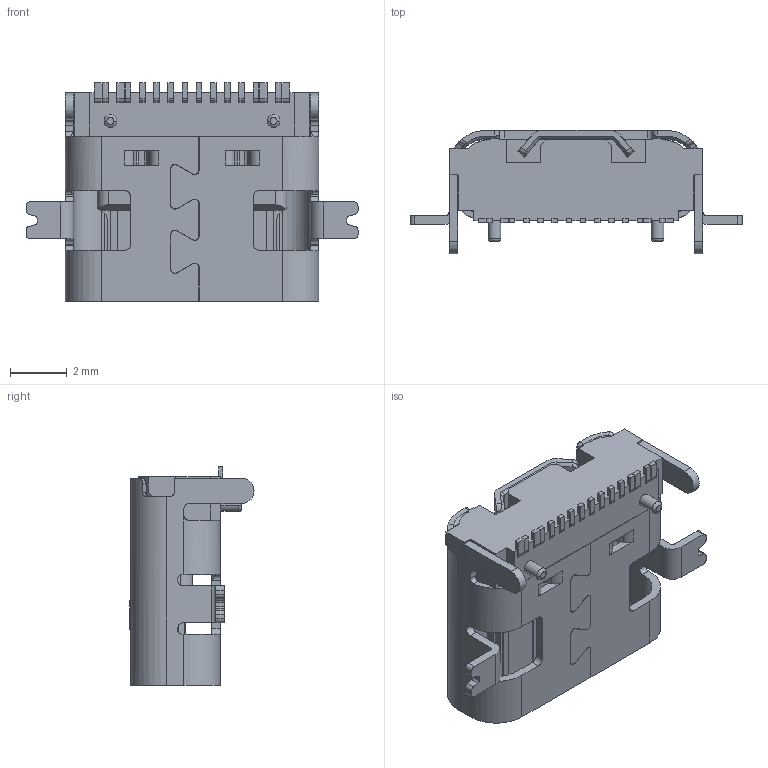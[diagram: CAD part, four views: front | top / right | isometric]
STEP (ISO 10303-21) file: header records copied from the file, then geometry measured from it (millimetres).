
FILE_DESCRIPTION((''),'2;1');
FILE_NAME('ASM0001_ASM','2024-01-27T',('WYH'),(''),'PRO/ENGINEER BY PARAMETRIC TECHNOLOGY CORPORATION, 2013040','PRO/ENGINEER BY PARAMETRIC TECHNOLOGY CORPORATION, 2013040','');
FILE_SCHEMA(('CONFIG_CONTROL_DESIGN'));
Length unit declared in the file: millimetre
Products named in the file (1): ASM0001_ASM
Bounding box: 11.7 x 4.37 x 7.7 mm (x, y, z)
Volume: 115.2 mm3; surface area: 482 mm2
Topology: 1 solids, 2 shells, 751 faces, 2193 edges, 1421 vertices
Faces by surface type: plane 525, cylinder 198, cone 18, bspline 6, torus 4
Entity records: 25381 total; most frequent: CARTESIAN_POINT 5247, ORIENTED_EDGE 4386, DIRECTION 4000, EDGE_CURVE 2193, VECTOR 1702, LINE 1702, VERTEX_POINT 1421, AXIS2_PLACEMENT_3D 1149
